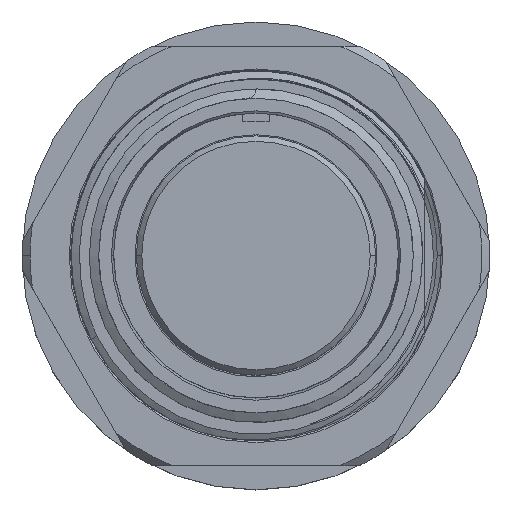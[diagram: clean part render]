
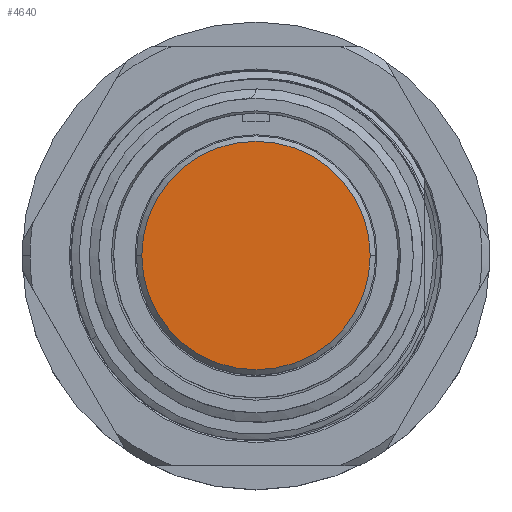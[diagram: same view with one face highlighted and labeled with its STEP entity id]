
A CAD part, top view. The second image highlights one B-rep face of the part: STEP entity #4640.
In plain terms, the highlighted planar face has unit normal (0, 0, 1).
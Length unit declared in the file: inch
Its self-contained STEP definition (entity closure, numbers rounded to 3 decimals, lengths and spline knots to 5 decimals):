
#681 = FACE_OUTER_BOUND ( 'NONE', #7142, .T. ) ;
#774 = CIRCLE ( 'NONE', #10730, 0.425 ) ;
#900 = VERTEX_POINT ( 'NONE', #4968 ) ;
#1315 = DIRECTION ( 'NONE',  ( 1., 0., 0. ) ) ;
#1789 = CARTESIAN_POINT ( 'NONE',  ( 0., 0., -0.018 ) ) ;
#2916 = CARTESIAN_POINT ( 'NONE',  ( 0., 0., -0.018 ) ) ;
#4640 = ADVANCED_FACE ( 'NONE', ( #681 ), #6116, .T. ) ;
#4968 = CARTESIAN_POINT ( 'NONE',  ( -0.425, 0., -0.018 ) ) ;
#5496 = EDGE_CURVE ( 'NONE', #900, #16351, #8105, .T. ) ;
#5500 = DIRECTION ( 'NONE',  ( 0., 0., 1. ) ) ;
#6116 = PLANE ( 'NONE',  #6903 ) ;
#6903 = AXIS2_PLACEMENT_3D ( 'NONE', #10212, #10297, #11643 ) ;
#7142 = EDGE_LOOP ( 'NONE', ( #14274, #17356 ) ) ;
#7224 = DIRECTION ( 'NONE',  ( 0., 0., 1. ) ) ;
#8105 = CIRCLE ( 'NONE', #11782, 0.425 ) ;
#9107 = CARTESIAN_POINT ( 'NONE',  ( 0.425, 0., -0.018 ) ) ;
#10212 = CARTESIAN_POINT ( 'NONE',  ( 0., 0., -0.018 ) ) ;
#10297 = DIRECTION ( 'NONE',  ( 0., 0., 1. ) ) ;
#10730 = AXIS2_PLACEMENT_3D ( 'NONE', #1789, #7224, #11492 ) ;
#11492 = DIRECTION ( 'NONE',  ( 1., 0., 0. ) ) ;
#11643 = DIRECTION ( 'NONE',  ( 1., 0., 0. ) ) ;
#11782 = AXIS2_PLACEMENT_3D ( 'NONE', #2916, #5500, #1315 ) ;
#13076 = EDGE_CURVE ( 'NONE', #16351, #900, #774, .T. ) ;
#14274 = ORIENTED_EDGE ( 'NONE', *, *, #5496, .T. ) ;
#16351 = VERTEX_POINT ( 'NONE', #9107 ) ;
#17356 = ORIENTED_EDGE ( 'NONE', *, *, #13076, .T. ) ;
